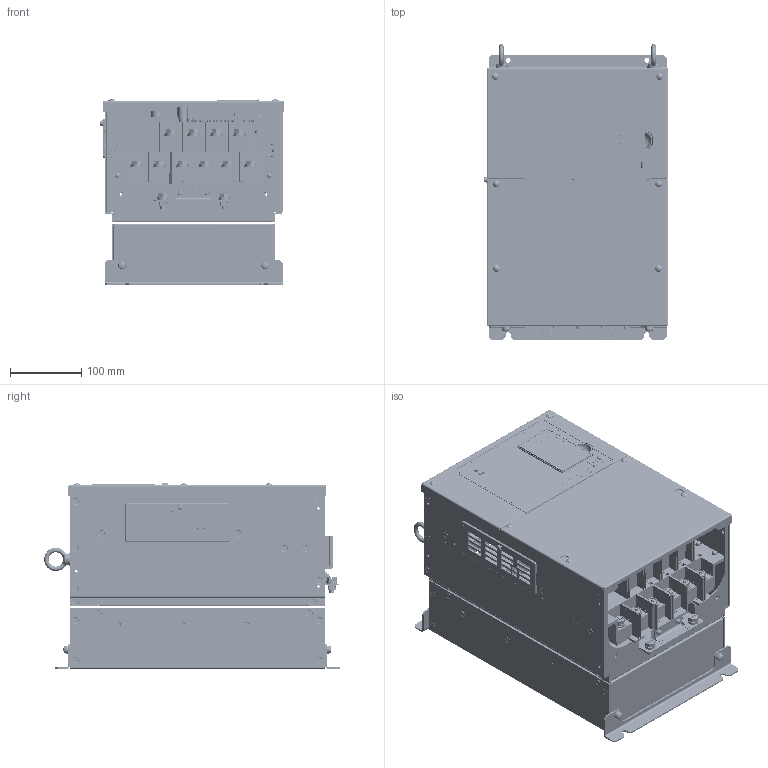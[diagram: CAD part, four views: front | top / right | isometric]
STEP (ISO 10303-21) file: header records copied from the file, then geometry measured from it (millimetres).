
FILE_DESCRIPTION((''),'2;1');
FILE_NAME('71616-AA400058AAA_ASM','2010-03-31T',('jc'),('YASKAWA ELECTRIC CORCORATION'),'PRO/ENGINEER BY PARAMETRIC TECHNOLOGY CORPORATION, 2008490','PRO/ENGINEER BY PARAMETRIC TECHNOLOGY CORPORATION, 2008490','');
FILE_SCHEMA(('CONFIG_CONTROL_DESIGN'));
Length unit declared in the file: millimetre
Products named in the file (131): LAY-AA4A0058AAA; ECAT31619-1; ECAT31619-2_1; ECAT31619-2_2; ECAT31619-2_ASM; ECAT31619-3_1; ECAT31619-3_2; ECAT31619-3_ASM; ECAT31619-5_AF0; ECAT31619-5_AF1; ECAT31619-5_AF2; ECAT31619-5_AF3; ECAT31619-5_AF4; ECAT31619-5_AF5; ECAT31619-5_AF6; ECAT31619-5_AF7; ECAT31619-5_AF8; ECAT31619-5; ECAT31619-5_AF9; ECAT31619-5_AF10; ECAT31619-5_AF11; ECAT31619-5_AF12; ECAT31619-5_AF13; ECAT31619-5_AF14; ECAT31619_ASM; ECAT31622-1_1; ECAT31622-2_1; ECAT31622-3_1; ECAT31622-3_2; ECAT31622-3_ASM; ECAT31622-4_1; ECAT31622-4_2; ECAT31622-4_ASM; ECAT31622-5_1; ECAT31622-5_2; ECAT31622-5_ASM; ECAT31622-6-1; ECAT31622-6-2; SPAT46011; ECAT31622-7_AF0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
Assembly tree (211 placements, depth 6):
  71616-AA400058AAA_ASM
    LAY-AA4A0058AAA
    ECAT31619_ASM
      ECAT31619-1
      ECAT31619-2_ASM
        ECAT31619-2_1
        ECAT31619-2_2  x4
      ECAT31619-3_ASM
        ECAT31619-3_1
        ECAT31619-3_2  x4
      ECAT31619-5_AF0
      ECAT31619-5_AF1
      ECAT31619-5_AF2
      ECAT31619-5_AF3
      ECAT31619-5_AF4
      ECAT31619-5_AF5
      ECAT31619-5_AF6
      ECAT31619-5_AF7
      ECAT31619-5_AF8
      ECAT31619-5  x9
      ECAT31619-5_AF9
      ECAT31619-5_AF10
      ECAT31619-5_AF11
      ECAT31619-5_AF12
      ECAT31619-5_AF13
      ECAT31619-5_AF14
    ECAT31622_ASM
      ECAT31622-1_1
      ECAT31622-2_1
      ECAT31622-3_ASM
        ECAT31622-3_1
        ECAT31622-3_2  x2
      ECAT31622-4_ASM
        ECAT31622-4_1
        ECAT31622-4_2  x2
      ECAT31622-5_ASM
        ECAT31622-5_1
        ECAT31622-5_2  x2
      ECAT31622-6-1
      ECAT31622-6-2
      SPAT46011  x4
      ECAT31622-7_AF0
      ECAT31622-7_AF1
      ECAT31622-7_AF2
      ECAT31622-7_AF3
      ECAT31622-7  x11
      ECAT31622-7_AF4
      ECAT31622-7_AF5
      ECAT31622-7_AF6
      ECAT31622-7_AF7
      ECAT31622-7_AF8
      ECAT31622-7_AF9
      ECAT31622-7_AF10
      ECAT31622-7_AF11
      ECAT31622-7_AF12
      ECAT31622-7_AF13
    TBET41228_ASM
      TBET41228_1
      TBET41228_2  x2
    MS15_M4X10  x7
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Bounding box: 259.5 x 415.2 x 260.74 mm (x, y, z)
Volume: 2201338.6 mm3; surface area: 1609685.6 mm2
Topology: 309 solids, 309 shells, 13763 faces, 35431 edges, 22718 vertices
Faces by surface type: plane 10079, cylinder 2289, cone 889, bspline 226, sphere 149, torus 131
Entity records: 384856 total; most frequent: CARTESIAN_POINT 78335, ORIENTED_EDGE 63820, DIRECTION 60836, EDGE_CURVE 31910, VECTOR 26578, LINE 26578, VERTEX_POINT 20621, AXIS2_PLACEMENT_3D 17129
